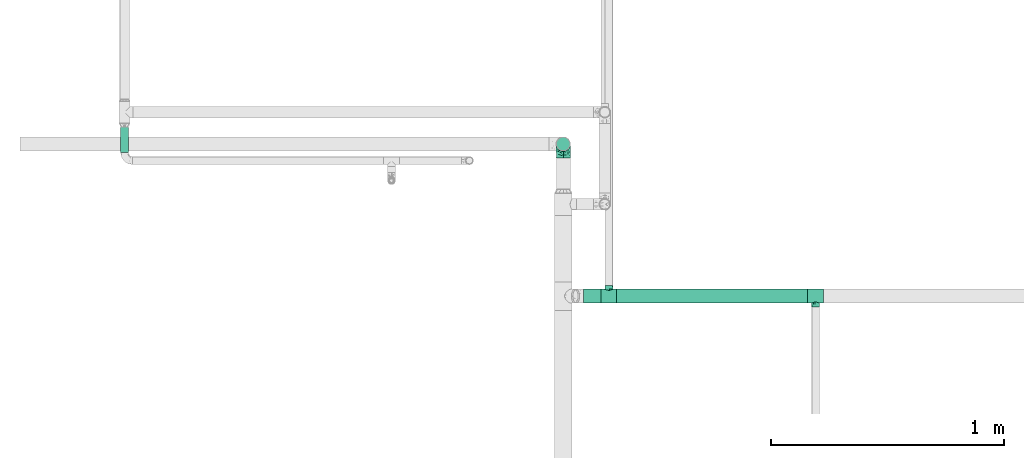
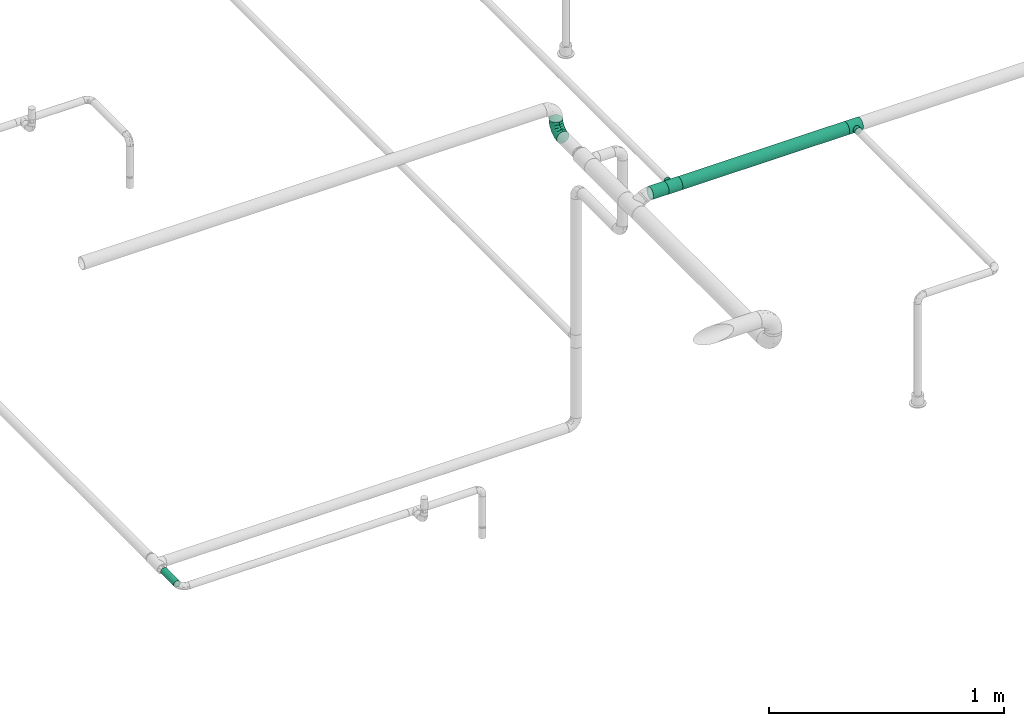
# One storey, part 17 of 95: 3 flow fittings, 3 flow segments.
"""IFC2X3 building model written with IfcOpenShell, lengths in millimetres."""

import ifcopenshell
import ifcopenshell.guid

model = None  # the IFC model being written
_history = None  # IfcOwnerHistory: only IFC2X3 demands one
_inside = {}  # id of a spatial element -> (the spatial element, [elements in it])
_under = {}  # id of a project, library or spatial element -> (it, [spatial elements below it])
_declared = {}  # id of a project -> (the project, [libraries it declares])
_typed = {}  # id of a type object -> (the type object, [elements of that type])
_made_of = {}  # id of a material, layer set ... -> (it, [elements and type objects made of it])


def new_model(schema):
    """Start an empty IFC model of exactly this schema.

    Asked for "IFC4X3", IfcOpenShell would pick the latest addendum, in which some entities
    have other attributes; the version numbers below select the first issue.
    IFC2X3 requires an IfcOwnerHistory on every rooted entity: one is made here for all.
    """
    global model, _history
    if schema == "IFC4X3":
        model = ifcopenshell.file(schema_version=(4, 3, 0, 0))
    else:
        model = ifcopenshell.file(schema=schema)
    _inside.clear()
    _under.clear()
    _declared.clear()
    _typed.clear()
    _made_of.clear()
    _history = None
    if model.schema == "IFC2X3":
        org = make("IfcOrganization", Name="unknown")
        user = make(
            "IfcPersonAndOrganization",
            ThePerson=make("IfcPerson", FamilyName="unknown"),
            TheOrganization=org,
        )
        app = make(
            "IfcApplication",
            ApplicationDeveloper=org,
            Version="unknown",
            ApplicationFullName="unknown",
            ApplicationIdentifier="unknown",
        )
        _history = make(
            "IfcOwnerHistory",
            OwningUser=user,
            OwningApplication=app,
            ChangeAction="ADDED",
            CreationDate=0,
        )
    return model


def make(cls, **values):
    """One entity of the class cls with the attributes given. An attribute that is None is left unset."""
    return model.create_entity(
        cls, **{name: value for name, value in values.items() if value is not None}
    )


def entity(cls, *values):
    """Any entity or typed value of the class cls, its attributes in the order of the schema. None: left unset."""
    e = model.create_entity(cls)
    for i, value in enumerate(values):
        if value is not None:
            e[i] = value
    return e


def rooted(cls, **values):
    """An entity with a GlobalId (a new one), such as an element, a storey or a relation."""
    return make(cls, GlobalId=ifcopenshell.guid.new(), OwnerHistory=_history, **values)


def si_unit(unit_type, name, prefix=None):
    """IfcSIUnit, for example si_unit("LENGTHUNIT", "METRE", prefix="MILLI")."""
    return make("IfcSIUnit", UnitType=unit_type, Prefix=prefix, Name=name)


def converted_unit(unit_type, name, factor, base, dimensions=None, offset=None):
    """IfcConversionBasedUnit, such as the inch: factor (a typed value) times the base unit."""
    return make(
        "IfcConversionBasedUnit"
        if offset is None
        else "IfcConversionBasedUnitWithOffset",
        ConversionOffset=offset,
        Dimensions=None
        if dimensions is None
        else entity("IfcDimensionalExponents", *dimensions),
        UnitType=unit_type,
        Name=name,
        ConversionFactor=make(
            "IfcMeasureWithUnit", ValueComponent=factor, UnitComponent=base
        ),
    )


def derived_unit(unit_type, elements):
    """IfcDerivedUnit: a product of units, each with its exponent."""
    return make(
        "IfcDerivedUnit",
        Elements=[
            make("IfcDerivedUnitElement", Unit=unit, Exponent=power)
            for unit, power in elements
        ],
        UnitType=unit_type,
    )


def assignment(units):
    """IfcUnitAssignment: the units of a project."""
    return None if units is None else make("IfcUnitAssignment", Units=units)


def point(xyz):
    """IfcCartesianPoint."""
    return None if xyz is None else make("IfcCartesianPoint", Coordinates=xyz)


def direction(xyz):
    """IfcDirection."""
    return None if xyz is None else make("IfcDirection", DirectionRatios=xyz)


def frame(location, z_axis=None, x_axis=None):
    """IfcAxis2Placement3D, a coordinate frame: its origin and axes. An axis left out is left unset."""
    return make(
        "IfcAxis2Placement3D",
        Location=point(location),
        Axis=direction(z_axis),
        RefDirection=direction(x_axis),
    )


def frame_2d(location, x_axis=None):
    """IfcAxis2Placement2D, a coordinate frame in the plane: its origin and x axis."""
    return make(
        "IfcAxis2Placement2D", Location=point(location), RefDirection=direction(x_axis)
    )


def origin_with_axes():
    """The frame at (0, 0, 0) with the z axis (0, 0, 1) and the x axis (1, 0, 0) written out."""
    return frame((0.0, 0.0, 0.0), z_axis=(0.0, 0.0, 1.0), x_axis=(1.0, 0.0, 0.0))


def origin_2d_with_axis():
    """The frame at (0, 0) in the plane with the x axis (1, 0) written out."""
    return frame_2d((0.0, 0.0), x_axis=(1.0, 0.0))


def place(relative_to, where):
    """IfcLocalPlacement: puts the frame where relative to a parent placement (None: the world)."""
    return make(
        "IfcLocalPlacement", PlacementRelTo=relative_to, RelativePlacement=where
    )


def context(
    kind, dimensions, precision=None, world=None, true_north=None, identifier=None
):
    """IfcGeometricRepresentationContext, for example the 3D "Model" context."""
    return make(
        "IfcGeometricRepresentationContext",
        ContextIdentifier=identifier,
        ContextType=kind,
        CoordinateSpaceDimension=dimensions,
        Precision=precision,
        WorldCoordinateSystem=world,
        TrueNorth=true_north,
    )


def subcontext(parent, identifier, kind, view, scale=None):
    """IfcGeometricRepresentationSubContext, for example "Body" below "Model"."""
    return make(
        "IfcGeometricRepresentationSubContext",
        ContextIdentifier=identifier,
        ContextType=kind,
        ParentContext=parent,
        TargetScale=scale,
        TargetView=view,
    )


def project(units=None, contexts=None):
    """IfcProject with its units and contexts."""
    return rooted(
        "IfcProject",
        Name="project",
        RepresentationContexts=contexts,
        UnitsInContext=assignment(units),
    )


def spatial(cls, under=None, at=None, **own):
    """A site, building, storey or space (cls), placed at a placement, below another one or the project."""
    s = rooted(cls, ObjectPlacement=at, **own)
    if under is not None:
        _under.setdefault(under.id(), (under, []))[1].append(s)
    return s


def profile(cls, at=None, kind="AREA", **sizes):
    """A parametric profile (cls). Its sizes go by their IFC names, for example OverallWidth=200.0."""
    return make(cls, ProfileType=kind, Position=at, **sizes)


def hollow_circle(**sizes):
    """IfcCircleHollowProfileDef."""
    return profile("IfcCircleHollowProfileDef", **sizes)


def extrude(swept, where, along, depth):
    """IfcExtrudedAreaSolid: the profile swept, set in the frame where, extruded along a direction by depth."""
    return make(
        "IfcExtrudedAreaSolid",
        SweptArea=swept,
        Position=where,
        ExtrudedDirection=direction(along),
        Depth=depth,
    )


def faces_of(points, faces, orient=None, outer=None):
    """IfcFace entities. A face is a list of loops; a loop is a list of indices into points, from 0.

    orient and outer hold one flag for each loop. By default every Orientation is true, the
    first loop of a face is its IfcFaceOuterBound and the others are IfcFaceBound.
    """
    made = []
    for i, loops in enumerate(faces):
        bounds = []
        for j, loop in enumerate(loops):
            is_outer = j == 0 if outer is None else outer[i][j]
            bounds.append(
                make(
                    "IfcFaceOuterBound" if is_outer else "IfcFaceBound",
                    Bound=make("IfcPolyLoop", Polygon=[points[k] for k in loop]),
                    Orientation=True if orient is None else orient[i][j],
                )
            )
        made.append(make("IfcFace", Bounds=bounds))
    return made


def open_shell(faces, orient=None, outer=None):
    """The faces of one IfcOpenShell. surface_model builds it on its shared points."""
    return ("IfcOpenShell", faces, orient, outer)


def surface_model(cls, points, shells):
    """IfcFaceBasedSurfaceModel or IfcShellBasedSurfaceModel (cls): surfaces that need not close."""
    shared = [point(p) for p in points]
    made = [make(c, CfsFaces=faces_of(shared, fs, o, b)) for c, fs, o, b in shells]
    if cls == "IfcFaceBasedSurfaceModel":
        return make(cls, FbsmFaces=made)
    return make(cls, SbsmBoundary=made)


def shape(context_of_items, identifier, shape_type, items):
    """IfcShapeRepresentation: the items that make up one representation, for example the "Body"."""
    return make(
        "IfcShapeRepresentation",
        ContextOfItems=context_of_items,
        RepresentationIdentifier=identifier,
        RepresentationType=shape_type,
        Items=items,
    )


def source(mapping_origin, context_of_items, identifier, shape_type, items):
    """IfcRepresentationMap: a shape defined once, which mapped items show again and again."""
    return make(
        "IfcRepresentationMap",
        MappingOrigin=mapping_origin,
        MappedRepresentation=shape(context_of_items, identifier, shape_type, items),
    )


def transform(
    local_origin,
    x_axis=None,
    y_axis=None,
    z_axis=None,
    scale=None,
    scale2=None,
    scale3=None,
    uniform=True,
):
    """IfcCartesianTransformationOperator3D, or its non-uniform kind. x_axis, y_axis, z_axis: its Axis1, 2, 3."""
    if uniform:
        return make(
            "IfcCartesianTransformationOperator3D",
            Axis1=direction(x_axis),
            Axis2=direction(y_axis),
            LocalOrigin=point(local_origin),
            Scale=scale,
            Axis3=direction(z_axis),
        )
    return make(
        "IfcCartesianTransformationOperator3DnonUniform",
        Axis1=direction(x_axis),
        Axis2=direction(y_axis),
        LocalOrigin=point(local_origin),
        Scale=scale,
        Axis3=direction(z_axis),
        Scale2=scale2,
        Scale3=scale3,
    )


def mapped(mapping_source, mapping_target):
    """IfcMappedItem: shows the shape of a source again, moved by a transform."""
    return make(
        "IfcMappedItem", MappingSource=mapping_source, MappingTarget=mapping_target
    )


def made_of(thing, what):
    """Note that an element or type object is made of a material, layer set ...; save() writes the relation."""
    if what is not None:
        _made_of.setdefault(what.id(), (what, []))[1].append(thing)
    return thing


def type_object(cls, material=None, **own):
    """A type object (cls), such as IfcWallType, which elements share."""
    return made_of(rooted(cls, **own), material)


def element(
    cls,
    number,
    at=None,
    inside=None,
    cuts=None,
    type_object=None,
    material=None,
    context=None,
    identifier="Body",
    shape_type=None,
    held_by="IfcProductDefinitionShape",
    body=None,
    shapes=None,
    **own,
):
    """One element of the class cls, such as IfcWall. Its Tag is "e" and its number.

    at: its placement. inside: the storey or other place that contains it. cuts: it is an
    opening in that element (IfcRelVoidsElement). A single representation is given by context,
    identifier, shape_type and body (its items); several are given by shapes. held_by: the class
    of the entity that holds the representations. save() writes the other relations.
    """
    e = rooted(cls, Tag="e%d" % number, ObjectPlacement=at, **own)
    if body is not None:
        shapes = [shape(context, identifier, shape_type, body)]
    if shapes is not None:
        e.Representation = make(held_by, Representations=shapes)
    if inside is not None:
        _inside.setdefault(inside.id(), (inside, []))[1].append(e)
    if cuts is not None:
        rooted(
            "IfcRelVoidsElement", RelatingBuildingElement=cuts, RelatedOpeningElement=e
        )
    if type_object is not None:
        _typed.setdefault(type_object.id(), (type_object, []))[1].append(e)
    return made_of(e, material)


def aggregate(whole, parts):
    """IfcRelAggregates: a whole, such as a stair, and the parts it consists of."""
    return rooted("IfcRelAggregates", RelatingObject=whole, RelatedObjects=parts)


def save(model, path):
    """Write the relations noted so far, then the file.

    IfcRelAggregates (storeys below a building ...), IfcRelContainedInSpatialStructure (elements
    in a storey), IfcRelDefinesByType, IfcRelAssociatesMaterial and IfcRelDeclares: one each for
    every whole, place, type object, material and project.
    """
    for whole, parts in _under.values():
        aggregate(whole, parts)
    for where, things in _inside.values():
        rooted(
            "IfcRelContainedInSpatialStructure",
            RelatedElements=things,
            RelatingStructure=where,
        )
    for kind, things in _typed.values():
        rooted("IfcRelDefinesByType", RelatedObjects=things, RelatingType=kind)
    for what, things in _made_of.values():
        rooted("IfcRelAssociatesMaterial", RelatedObjects=things, RelatingMaterial=what)
    for by, libraries in _declared.values():
        rooted("IfcRelDeclares", RelatingContext=by, RelatedDefinitions=libraries)
    model.write(path)


model = new_model("IFC2X3")

# Units and contexts
model_context = context("Model", 3, precision=0.01, world=frame((0.0, 4.29681676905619e-09, 0.0)), true_north=direction((4.01073788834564e-13, 1.0)))
plan_context = context("Plan", 3, precision=0.01, world=frame((0.0, 4.29681676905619e-09, 0.0)), true_north=direction((4.01073788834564e-13, 1.0)))
body_context = subcontext(model_context, "Body", "Model", "MODEL_VIEW")
ifc_project = project(units=[converted_unit("PLANEANGLEUNIT", "DEGREE", entity("IfcPositiveLengthMeasure", 0.0174532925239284), si_unit("PLANEANGLEUNIT", "RADIAN"), dimensions=[0, 0, 0, 0, 0, 0, 0]), si_unit("AREAUNIT", "SQUARE_METRE"), si_unit("LENGTHUNIT", "METRE", prefix="MILLI"), si_unit("MASSUNIT", "GRAM", prefix="KILO"), si_unit("POWERUNIT", "WATT"), si_unit("PRESSUREUNIT", "PASCAL"), si_unit("FORCEUNIT", "NEWTON", prefix="KILO"), si_unit("ELECTRICVOLTAGEUNIT", "VOLT"), si_unit("ELECTRICCURRENTUNIT", "AMPERE"), si_unit("THERMODYNAMICTEMPERATUREUNIT", "DEGREE_CELSIUS"), si_unit("TIMEUNIT", "SECOND"), si_unit("VOLUMEUNIT", "CUBIC_METRE"), derived_unit("LINEARVELOCITYUNIT", [(si_unit("LENGTHUNIT", "METRE"), 1), (si_unit("TIMEUNIT", "SECOND"), -1)]), derived_unit("VOLUMETRICFLOWRATEUNIT", [(si_unit("VOLUMEUNIT", "CUBIC_METRE"), 1), (si_unit("TIMEUNIT", "SECOND"), -1)]), derived_unit("THERMALTRANSMITTANCEUNIT", [(si_unit("POWERUNIT", "WATT"), 1), (si_unit("THERMODYNAMICTEMPERATUREUNIT", "KELVIN"), -1), (si_unit("AREAUNIT", "SQUARE_METRE"), -1)]), derived_unit("SOUNDPRESSUREUNIT", [(si_unit("PRESSUREUNIT", "PASCAL"), 1)])], contexts=[model_context, plan_context])

# Site, building, storey
site_placement = place(None, frame((0.0, -4.29681676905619e-09, 0.0), z_axis=(0.0, 0.0, 1.0), x_axis=(1.0, 0.0, 0.0)))
site = spatial("IfcSite", under=ifc_project, at=site_placement, CompositionType="ELEMENT")
building_placement = place(site_placement, frame((0.0, 4.29681676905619e-09, 0.0), z_axis=(0.0, 0.0, 1.0), x_axis=(1.0, 0.0, 0.0)))
building = spatial("IfcBuilding", under=site, at=building_placement, Name="mc-building", CompositionType="ELEMENT")
storey_placement = place(building_placement, frame((0.0, 0.0, 210900.0), z_axis=(0.0, 0.0, 1.0), x_axis=(1.0, 0.0, 0.0)))
storey = spatial("IfcBuildingStorey", under=building, at=storey_placement, Name="Nivå F", CompositionType="ELEMENT", Elevation=210900.0)

# Flow fittings
pipe_fitting_type_1 = type_object("IfcPipeFittingType", Name="magi_pipe_fe_elbow_short_001", PredefinedType="BEND")
shared_shape_1 = source(origin_with_axes(), body_context, "Body", "SurfaceModel", [
    surface_model("IfcShellBasedSurfaceModel", [(-60.4, 15.1, -26.15397), (-60.4, 7.81634, -29.17096), (-60.4, 0.0, -30.2), (-60.4, -21.35462, -21.35462), (-60.4, 26.15397, -15.1), (-60.4, 21.35462, -21.35462), (-60.4, 29.17096, -7.81634), (-60.4, -15.1, -26.15397), (-60.4, -7.81634, -29.17096), (-60.4, -26.15397, -15.1), (-60.4, -29.17096, -7.81634), (-60.4, -30.2, 0.0), (-60.4, -29.17096, 7.81634), (-60.4, 29.17096, 7.81634), (-60.4, -21.35462, 21.35462), (-60.4, 26.15397, 15.1), (-60.4, 21.35462, 21.35462), (-60.4, 7.81634, 29.17096), (-60.4, 15.1, 26.15397), (-60.4, -26.15397, 15.1), (-60.4, -7.81634, 29.17096), (-60.4, 0.0, 30.2), (-60.4, -15.1, 26.15397), (-60.4, 30.2, 0.0), (0.0, 60.4, -30.2), (-7.81634, 60.4, -29.17096), (-15.1, 60.4, -26.15397), (-26.15397, 60.4, -15.1), (-29.17096, 60.4, -7.81634), (-21.35462, 60.4, -21.35462), (29.17096, 60.4, -7.81634), (7.81634, 60.4, -29.17096), (21.35462, 60.4, -21.35462), (15.1, 60.4, -26.15397), (26.15397, 60.4, -15.1), (29.17096, 60.4, 7.81634), (30.2, 60.4, 0.0), (-29.17096, 60.4, 7.81634), (21.35462, 60.4, 21.35462), (-21.35462, 60.4, 21.35462), (-26.15397, 60.4, 15.1), (-15.1, 60.4, 26.15397), (-7.81634, 60.4, 29.17096), (26.15397, 60.4, 15.1), (15.1, 60.4, 26.15397), (0.0, 60.4, 30.2), (7.81634, 60.4, 29.17096), (-30.2, 60.4, 0.0), (-40.79975, -26.48639, 9.49143), (-44.2927, -23.46036, 16.95222), (-32.40306, -25.76572, 0.0), (-45.54716, -27.84754, 0.0), (-7.73382, -10.42985, 11.64553), (-2.102, -8.06735, 6.35117), (1.74449, -1.74448, 12.51332), (-46.13593, -4.00068, 29.68351), (-42.2898, 4.62925, 30.14853), (10.31662, 7.37496, 11.34434), (18.44156, 24.57514, 15.02148), (7.07276, 10.95732, 19.27498), (-30.06693, -0.27102, 29.27145), (-44.17726, -11.39441, 27.16031), (-23.4551, -7.13383, 25.24246), (-38.74025, -17.25266, 22.43475), (-27.059, -23.14697, 6.2131), (-19.77486, -19.33133, 0.0), (-10.95732, -7.07276, 19.27498), (-5.39458, 5.39458, 24.69106), (-29.52069, 48.20084, 13.12597), (-25.22813, 47.01796, 19.8404), (-11.27311, 52.093, 28.2877), (-4.13904, 45.17494, 30.12582), (-46.55352, 11.8443, 28.52822), (-7.88305, 20.22717, 29.65331), (-15.00576, 5.54025, 28.20072), (-3.0852, 16.31623, 27.75343), (-52.24998, 18.2886, 24.60768), (-10.49591, 29.69865, 30.14582), (-22.36958, 22.36958, 29.4662), (-17.98262, 13.19715, 30.04443), (-47.74519, 32.16745, 6.63994), (-48.21585, 29.51581, 13.12396), (-37.49729, 37.49729, 11.28901), (-47.20967, 25.1754, 19.81929), (17.25266, 38.74025, 22.43475), (-31.32046, 40.03273, 17.09289), (11.39441, 44.17725, 27.16031), (23.46036, 44.2927, 16.95222), (26.48639, 40.79975, 9.49143), (-7.14666, -12.89694, 0.0), (-14.66463, -16.61192, 7.82462), (4.00068, 46.13593, 29.68351), (-33.18602, 12.93608, 29.65955), (-29.63414, 7.40029, 30.18711), (19.33133, 19.77486, 0.0), (23.14697, 27.059, 6.2131), (16.61192, 14.66463, 7.82462), (27.84754, 45.54716, 0.0), (-32.10611, 20.49149, 27.93323), (-24.57514, -18.44156, 15.02148), (-21.89487, 39.03366, 25.38224), (-18.45005, 50.6405, 24.73297), (-31.78933, 48.71949, 6.47886), (-37.84917, 39.61073, 5.315), (13.91334, 24.32737, 20.46816), (7.13383, 23.4551, 25.24246), (-34.24603, 45.3, 0.0), (-27.95749, 31.89166, 24.81537), (-41.58677, 20.50028, 25.43151), (-0.46157, 0.46157, 17.84239), (-17.23338, 31.26213, 29.03145), (-24.05994, 29.23812, 27.47858), (-13.06094, 40.92174, 28.76128), (-31.83392, 33.72702, 21.39203), (-38.78737, 32.45032, 16.84022), (0.27102, 30.06693, 29.27145), (-24.21469, -13.23741, 21.05734), (8.23548, 2.19333, 6.02161), (25.76572, 32.40306, 0.0), (12.89694, 7.14666, 0.0), (-45.3, 34.24603, 0.0), (2.87514, -2.87514, 0.0), (-44.53432, 26.00869, -20.11577), (-48.18822, 29.5248, -13.12766), (-24.67192, -7.62159, -25.33714), (-26.22398, -0.37671, -28.72374), (-12.13397, -0.50536, -24.74577), (-47.80891, 3.81859, -30.10171), (-44.05719, -27.03585, -9.84546), (-37.94552, -22.39569, -16.35738), (-28.81663, -22.64668, -10.132), (-43.93799, 12.32789, -28.63778), (-33.27, 7.1392, -30.19348), (-26.0087, 44.53432, -20.11577), (-48.89164, 31.68872, -6.60822), (-18.95522, 47.41145, -24.9828), (-12.32789, 43.93799, -28.63778), (-38.42778, 38.42778, -7.21049), (18.04263, 43.69152, -22.80146), (10.42233, 38.24532, -26.85918), (11.90576, 51.00473, -27.48545), (-5.88381, -10.62327, -7.95335), (-5.9694, -7.83116, -13.76182), (3.24899, -2.56331, -7.96861), (-17.62229, 16.32998, -30.18286), (-28.62959, 17.86952, -29.30113), (-47.41145, 18.95522, -24.98279), (-50.84455, -24.04089, -17.54629), (-29.38053, 34.30665, -22.74674), (-27.91099, 27.91099, -26.51666), (-36.91219, 25.51094, -23.99233), (2.63361, -0.55507, -12.94367), (-43.69152, -18.04263, -22.80146), (22.39569, 37.94552, -16.35738), (27.03585, 44.05719, -9.84546), (22.64668, 28.81663, -10.132), (-51.00473, -11.90576, -27.48545), (3.80785, 44.49426, -29.64782), (-19.0921, -14.69952, -16.47487), (-22.5489, -12.31934, -21.1263), (-10.94772, -7.46239, -18.88204), (-32.95885, -13.78948, -23.71249), (-38.24532, -10.42233, -26.85918), (-44.49427, -3.80785, -29.64782), (-22.6301, 37.15314, -25.58239), (-31.68872, 48.89164, -6.60822), (-3.8186, 47.80891, -30.10171), (-10.66133, 10.66133, -28.51691), (0.37671, 26.22398, -28.72374), (1.27136, 14.18619, -25.18541), (-29.5248, 48.18821, -13.12766), (-36.27113, 36.27113, -14.88553), (24.04089, 50.84455, -17.54629), (17.50188, 24.2636, -16.21902), (9.73525, 11.44907, -16.75087), (12.31934, 22.5489, -21.1263), (6.24176, 25.78208, -26.38266), (-7.1392, 33.27, -30.19348), (-36.7166, 19.4356, -27.21946), (-18.00754, 29.38864, -29.15505), (-0.28629, 0.28629, -17.49884), (-13.98848, -16.88492, -5.19509), (15.48569, 15.00432, -11.24742), (16.88492, 13.98848, -5.19509), (3.55782, 9.20508, -21.18402), (-15.00432, -15.48569, -11.24742)], [open_shell([[[0, 1, 2]], [[0, 2, 3]], [[4, 0, 3]], [[5, 0, 4]], [[6, 4, 3]], [[7, 3, 8]], [[3, 2, 8]], [[9, 10, 3]], [[3, 10, 6]], [[11, 12, 10]], [[13, 6, 10]], [[13, 10, 14]], [[15, 13, 16]], [[17, 18, 16]], [[13, 17, 16]], [[17, 13, 14]], [[19, 14, 12]], [[12, 14, 10]], [[20, 21, 22]], [[17, 14, 22]], [[17, 22, 21]], [[13, 23, 6]], [[24, 25, 26]], [[24, 26, 27]], [[27, 28, 24]], [[27, 26, 29]], [[24, 28, 30]], [[31, 32, 33]], [[31, 24, 32]], [[32, 30, 34]], [[24, 30, 32]], [[30, 35, 36]], [[30, 28, 37]], [[38, 30, 37]], [[39, 37, 40]], [[39, 41, 42]], [[39, 42, 37]], [[38, 37, 42]], [[35, 38, 43]], [[30, 38, 35]], [[44, 45, 46]], [[44, 38, 42]], [[45, 44, 42]], [[28, 47, 37]], [[48, 49, 19]], [[50, 48, 51]], [[52, 53, 54]], [[12, 48, 19]], [[12, 51, 48]], [[21, 55, 56]], [[19, 49, 14]], [[57, 58, 59]], [[60, 61, 62]], [[63, 22, 14]], [[63, 61, 22]], [[64, 50, 65]], [[62, 66, 67]], [[40, 68, 69]], [[42, 70, 71]], [[17, 72, 18]], [[73, 74, 75]], [[18, 76, 16]], [[20, 55, 21]], [[77, 78, 79]], [[80, 81, 82]], [[15, 83, 81]], [[84, 38, 44]], [[23, 13, 80]], [[13, 15, 81]], [[68, 85, 69]], [[83, 15, 16]], [[21, 56, 17]], [[44, 86, 84]], [[16, 76, 83]], [[87, 58, 88]], [[40, 37, 68]], [[89, 90, 65]], [[45, 91, 46]], [[65, 90, 64]], [[45, 42, 71]], [[92, 93, 79]], [[88, 35, 43]], [[43, 38, 87]], [[87, 88, 43]], [[94, 95, 96]], [[88, 97, 35]], [[98, 72, 92]], [[49, 99, 63]], [[69, 100, 101]], [[82, 102, 103]], [[104, 105, 59]], [[106, 102, 47]], [[98, 107, 108]], [[102, 82, 68]], [[86, 44, 46]], [[69, 39, 40]], [[109, 54, 57]], [[110, 100, 111]], [[22, 61, 20]], [[101, 41, 39]], [[70, 42, 41]], [[112, 77, 71]], [[84, 86, 105]], [[96, 95, 58]], [[100, 69, 113]], [[72, 17, 56]], [[108, 113, 83]], [[81, 114, 82]], [[112, 110, 77]], [[91, 71, 115]], [[62, 61, 63]], [[55, 61, 60]], [[116, 99, 66]], [[74, 62, 67]], [[91, 86, 46]], [[105, 86, 115]], [[75, 105, 115]], [[109, 67, 66]], [[59, 105, 67]], [[48, 64, 99]], [[99, 49, 48]], [[63, 14, 49]], [[38, 84, 87]], [[58, 87, 84]], [[92, 72, 56]], [[76, 72, 108]], [[102, 68, 37]], [[82, 114, 85]], [[98, 111, 107]], [[112, 70, 101]], [[114, 83, 113]], [[82, 103, 80]], [[92, 79, 78]], [[115, 71, 77]], [[74, 79, 60]], [[77, 79, 73]], [[71, 91, 45]], [[86, 91, 115]], [[61, 55, 20]], [[56, 55, 60]], [[57, 54, 117]], [[104, 59, 58]], [[116, 66, 62]], [[52, 99, 90]], [[12, 11, 51]], [[97, 88, 118]], [[97, 36, 35]], [[53, 90, 89]], [[90, 53, 52]], [[94, 96, 119]], [[88, 95, 118]], [[117, 54, 53]], [[92, 56, 93]], [[98, 92, 78]], [[111, 98, 78]], [[72, 98, 108]], [[110, 111, 78]], [[107, 111, 100]], [[47, 102, 37]], [[102, 106, 103]], [[106, 120, 103]], [[103, 120, 80]], [[23, 80, 120]], [[13, 81, 80]], [[56, 60, 93]], [[60, 79, 93]], [[117, 121, 119]], [[121, 117, 53]], [[53, 89, 121]], [[119, 96, 117]], [[117, 96, 57]], [[77, 110, 78]], [[100, 110, 112]], [[83, 114, 81]], [[85, 114, 113]], [[69, 85, 113]], [[82, 85, 68]], [[109, 52, 54]], [[99, 52, 66]], [[69, 101, 39]], [[112, 101, 100]], [[100, 113, 107]], [[108, 107, 113]], [[62, 74, 60]], [[75, 74, 67]], [[105, 75, 67]], [[73, 75, 115]], [[77, 73, 115]], [[74, 73, 79]], [[99, 64, 90]], [[50, 64, 48]], [[118, 95, 94]], [[58, 95, 88]], [[58, 57, 96]], [[109, 57, 59]], [[72, 76, 18]], [[83, 76, 108]], [[101, 70, 41]], [[71, 70, 112]], [[58, 84, 104]], [[105, 104, 84]], [[67, 109, 59]], [[52, 109, 66]], [[62, 63, 116]], [[99, 116, 63]], [[122, 4, 123]], [[124, 125, 126]], [[2, 1, 127]], [[128, 129, 130]], [[127, 131, 132]], [[27, 29, 133]], [[120, 134, 23]], [[135, 26, 136]], [[123, 134, 137]], [[138, 139, 140]], [[122, 5, 4]], [[141, 142, 143]], [[144, 132, 145]], [[131, 0, 146]], [[128, 9, 147]], [[148, 149, 150]], [[128, 51, 10]], [[142, 151, 143]], [[152, 3, 7]], [[153, 154, 155]], [[156, 152, 7]], [[31, 157, 24]], [[158, 159, 160]], [[147, 9, 3]], [[129, 152, 161]], [[156, 7, 8]], [[162, 163, 125]], [[154, 34, 30]], [[120, 106, 137]], [[149, 148, 164]], [[47, 28, 165]], [[163, 8, 2]], [[4, 6, 123]], [[25, 166, 136]], [[167, 168, 169]], [[170, 133, 171]], [[25, 24, 166]], [[33, 32, 138]], [[157, 31, 140]], [[28, 27, 170]], [[32, 34, 172]], [[26, 135, 29]], [[132, 131, 145]], [[31, 33, 140]], [[173, 174, 175]], [[169, 168, 176]], [[25, 136, 26]], [[175, 138, 173]], [[168, 177, 157]], [[163, 162, 156]], [[153, 172, 154]], [[9, 128, 10]], [[154, 97, 118]], [[131, 178, 145]], [[0, 5, 146]], [[175, 139, 138]], [[155, 118, 94]], [[131, 1, 0]], [[146, 178, 131]], [[170, 137, 165]], [[149, 179, 145]], [[171, 133, 148]], [[160, 180, 142]], [[65, 181, 89]], [[170, 165, 28]], [[137, 171, 123]], [[172, 138, 32]], [[138, 153, 173]], [[168, 157, 139]], [[166, 157, 177]], [[176, 175, 169]], [[168, 167, 144]], [[154, 30, 97]], [[155, 182, 173]], [[162, 124, 161]], [[147, 152, 129]], [[127, 163, 2]], [[132, 144, 125]], [[132, 125, 163]], [[125, 167, 126]], [[129, 158, 130]], [[30, 36, 97]], [[143, 182, 183]], [[169, 126, 167]], [[5, 122, 146]], [[178, 150, 149]], [[136, 179, 164]], [[133, 29, 135]], [[123, 6, 134]], [[122, 123, 171]], [[133, 170, 27]], [[137, 170, 171]], [[184, 175, 174]], [[180, 160, 126]], [[126, 169, 184]], [[126, 159, 124]], [[51, 128, 50]], [[51, 11, 10]], [[131, 127, 1]], [[163, 127, 132]], [[157, 166, 24]], [[136, 166, 177]], [[164, 179, 149]], [[144, 167, 125]], [[179, 144, 145]], [[168, 144, 177]], [[136, 177, 179]], [[144, 179, 177]], [[141, 121, 89]], [[89, 181, 141]], [[154, 118, 155]], [[183, 155, 94]], [[143, 183, 119]], [[119, 183, 94]], [[155, 183, 182]], [[181, 130, 185]], [[50, 128, 130]], [[130, 181, 65]], [[50, 130, 65]], [[141, 181, 185]], [[142, 141, 185]], [[143, 121, 141]], [[158, 160, 142]], [[142, 180, 151]], [[158, 142, 185]], [[126, 160, 159]], [[130, 158, 185]], [[129, 159, 158]], [[23, 134, 6]], [[120, 137, 134]], [[137, 106, 165]], [[47, 165, 106]], [[174, 151, 180]], [[182, 143, 151]], [[150, 146, 122]], [[149, 145, 178]], [[146, 150, 178]], [[122, 171, 148]], [[148, 150, 122]], [[164, 133, 135]], [[133, 164, 148]], [[164, 135, 136]], [[138, 140, 33]], [[157, 140, 139]], [[154, 172, 34]], [[138, 172, 153]], [[163, 156, 8]], [[152, 156, 162]], [[152, 147, 3]], [[128, 147, 129]], [[155, 173, 153]], [[174, 173, 182]], [[151, 174, 182]], [[174, 180, 184]], [[126, 184, 180]], [[175, 184, 169]], [[168, 139, 176]], [[175, 176, 139]], [[161, 124, 159]], [[125, 124, 162]], [[129, 161, 159]], [[162, 161, 152]], [[143, 119, 121]]])]),
])
flow_fitting_placement = place(storey_placement, frame((522602.92009, 451491.5262, 4274.84456), z_axis=(1.0, 0.0, 0.0), x_axis=(0.0, 1.0, 0.0)))
element("IfcFlowFitting", 1, at=flow_fitting_placement, inside=storey, type_object=pipe_fitting_type_1, Name="magi_pipe_fe_elbow_short_001", context=body_context, shape_type="MappedRepresentation", body=[
    mapped(shared_shape_1, transform((0.0, 0.0, 0.0), scale=1.0)),
])
pipe_fitting_type_2 = type_object("IfcPipeFittingType", Name="magi_pipe_fe_tee_centric_90_NOR", PredefinedType="JUNCTION")
shared_shape_2 = source(origin_with_axes(), body_context, "Body", "SurfaceModel", [
    surface_model("IfcShellBasedSurfaceModel", [(-33.8, 15.1, -26.15397), (-33.8, 7.81634, -29.17096), (-33.8, 0.0, -30.2), (-33.8, 29.17096, -7.81634), (-33.8, 26.15397, -15.1), (-33.8, 21.35462, -21.35462), (-33.8, 30.2, 0.0), (-33.8, -30.2, 0.0), (-33.8, -15.1, -26.15397), (-33.8, -21.35462, -21.35462), (-33.8, -7.81634, -29.17096), (-33.8, -26.15397, -15.1), (-33.8, -29.17096, -7.81634), (-33.8, 26.15397, 15.1), (-33.8, 29.17096, 7.81634), (-33.8, 15.1, 26.15397), (-33.8, -21.35462, 21.35462), (-33.8, 21.35462, 21.35462), (-33.8, 7.81634, 29.17096), (-33.8, -29.17096, 7.81634), (-33.8, -26.15397, 15.1), (-33.8, -7.81634, 29.17096), (-33.8, 0.0, 30.2), (-33.8, -15.1, 26.15397), (33.8, 29.17096, -7.81634), (33.8, 0.0, -30.2), (33.8, 7.81634, -29.17096), (33.8, 21.35462, -21.35462), (33.8, 15.1, -26.15397), (33.8, 26.15397, -15.1), (33.8, -30.2, 0.0), (33.8, -7.81634, -29.17096), (33.8, -21.35462, -21.35462), (33.8, -15.1, -26.15397), (33.8, -29.17096, -7.81634), (33.8, -26.15397, -15.1), (33.8, 30.2, 0.0), (33.8, 29.17096, 7.81634), (33.8, 26.15397, 15.1), (33.8, -29.17096, 7.81634), (33.8, 15.1, 26.15397), (33.8, 7.81634, 29.17096), (33.8, 21.35462, 21.35462), (33.8, -21.35462, 21.35462), (33.8, -26.15397, 15.1), (33.8, -15.1, 26.15397), (33.8, 0.0, 30.2), (33.8, -7.81634, 29.17096), (33.8, -29.68548, 3.90817), (15.846, -29.62306, 5.87488), (16.373, -29.91153, 2.93744), (12.91037, -28.16217, 10.90561), (2.99213, -25.2068, 16.63301), (16.9, -30.2, 0.0), (33.8, -27.66246, 11.45817), (8.50854, -26.43531, 14.60187), (-8.51006, -26.43579, 14.60099), (-33.8, -27.66246, 11.45817), (-12.91447, -28.16405, 10.90075), (-15.84655, -29.62335, 5.87341), (-33.8, -29.68548, 3.90817), (-16.37327, -29.91168, 2.93671), (-16.9, -30.2, 0.0), (-2.99705, -25.20739, 16.63213), (2.99213, -25.2068, -16.63301), (-16.37327, -29.91168, -2.93671), (8.50854, -26.43531, -14.60187), (33.8, -27.66246, -11.45817), (16.373, -29.91153, -2.93744), (-33.8, -29.68548, -3.90817), (-15.84655, -29.62335, -5.87341), (15.846, -29.62306, -5.87488), (12.91037, -28.16217, -10.90561), (33.8, -29.68548, -3.90817), (-2.99705, -25.20739, -16.63213), (-8.51006, -26.43579, -14.60099), (-12.91447, -28.16405, -10.90075), (-33.8, -27.66246, -11.45817), (4.37404, -45.3, -16.32415), (-16.9, -45.3, 0.0), (0.0, -45.3, -16.9), (14.63583, -45.3, -8.45), (8.45, -45.3, -14.63583), (16.32415, -45.3, -4.37404), (11.9501, -45.3, -11.9501), (-11.9501, -45.3, -11.9501), (-8.45, -45.3, -14.63583), (-4.37404, -45.3, -16.32415), (-14.63583, -45.3, -8.45), (-16.32415, -45.3, -4.37404), (16.9, -45.3, 0.0), (8.45, -45.3, 14.63583), (16.32415, -45.3, 4.37404), (14.63583, -45.3, 8.45), (-8.45, -45.3, 14.63583), (11.9501, -45.3, 11.9501), (4.37404, -45.3, 16.32415), (-16.32415, -45.3, 4.37404), (-11.9501, -45.3, 11.9501), (-14.63583, -45.3, 8.45), (0.0, -45.3, 16.9), (-4.37404, -45.3, 16.32415), (-5.75355, -25.82159, 15.61656), (-0.00246, -25.20709, 16.63257), (5.75034, -25.82105, 15.61744), (5.75034, -25.82105, -15.61744), (-0.00246, -25.20709, -16.63257), (-5.75355, -25.82159, -15.61656)], [open_shell([[[0, 1, 2]], [[3, 0, 2]], [[0, 3, 4]], [[5, 0, 4]], [[6, 2, 7]], [[8, 9, 10]], [[9, 2, 10]], [[11, 12, 9]], [[7, 9, 12]], [[9, 7, 2]], [[6, 3, 2]], [[13, 14, 6]], [[7, 15, 13]], [[7, 16, 15]], [[17, 13, 15]], [[18, 15, 16]], [[19, 20, 7]], [[7, 20, 16]], [[21, 22, 23]], [[16, 23, 22]], [[16, 22, 18]], [[7, 13, 6]], [[24, 25, 26]], [[27, 26, 28]], [[29, 24, 26]], [[29, 26, 27]], [[25, 24, 30]], [[31, 32, 33]], [[32, 31, 34]], [[32, 34, 35]], [[34, 31, 30]], [[31, 25, 30]], [[24, 36, 30]], [[36, 37, 38]], [[39, 36, 38]], [[40, 41, 38]], [[40, 38, 42]], [[43, 38, 41]], [[39, 43, 44]], [[39, 38, 43]], [[45, 46, 47]], [[46, 45, 43]], [[41, 46, 43]], [[36, 39, 30]], [[48, 39, 49]], [[30, 48, 50]], [[39, 51, 49]], [[44, 43, 52]], [[30, 50, 53]], [[51, 54, 55]], [[52, 55, 44]], [[48, 49, 50]], [[43, 16, 52]], [[55, 54, 44]], [[56, 57, 58]], [[59, 60, 61]], [[62, 61, 7]], [[59, 58, 19]], [[56, 63, 20]], [[51, 39, 54]], [[20, 57, 56]], [[20, 63, 16]], [[58, 57, 19]], [[63, 52, 16]], [[7, 61, 60]], [[59, 19, 60]], [[43, 23, 16]], [[22, 47, 46]], [[21, 45, 47]], [[18, 46, 41]], [[38, 37, 14]], [[17, 40, 42]], [[13, 42, 38]], [[41, 40, 15]], [[6, 37, 36]], [[23, 45, 21]], [[21, 47, 22]], [[18, 22, 46]], [[41, 15, 18]], [[15, 40, 17]], [[13, 17, 42]], [[14, 13, 38]], [[37, 6, 14]], [[45, 23, 43]], [[4, 24, 29]], [[3, 36, 24]], [[5, 29, 27]], [[25, 31, 10]], [[1, 28, 26]], [[2, 26, 25]], [[27, 28, 0]], [[8, 31, 33]], [[6, 36, 3]], [[3, 24, 4]], [[5, 4, 29]], [[27, 0, 5]], [[0, 28, 1]], [[2, 1, 26]], [[10, 2, 25]], [[31, 8, 10]], [[33, 9, 8]], [[32, 35, 64]], [[7, 65, 62]], [[66, 64, 35]], [[67, 66, 35]], [[32, 64, 9]], [[53, 68, 30]], [[69, 70, 65]], [[71, 72, 34]], [[71, 73, 68]], [[66, 67, 72]], [[34, 72, 67]], [[74, 75, 11]], [[76, 12, 77]], [[11, 9, 74]], [[76, 77, 75]], [[74, 9, 64]], [[76, 70, 12]], [[71, 34, 73]], [[70, 69, 12]], [[65, 7, 69]], [[30, 68, 73]], [[77, 11, 75]], [[32, 9, 33]], [[78, 79, 80]], [[81, 78, 82]], [[81, 83, 78]], [[81, 82, 84]], [[79, 78, 83]], [[80, 85, 86]], [[86, 87, 80]], [[88, 79, 89]], [[85, 80, 88]], [[79, 88, 80]], [[83, 90, 79]], [[91, 90, 92]], [[91, 92, 93]], [[94, 79, 91]], [[91, 93, 95]], [[94, 91, 96]], [[97, 98, 99]], [[98, 97, 94]], [[94, 100, 101]], [[97, 79, 94]], [[96, 100, 94]], [[91, 79, 90]], [[97, 61, 79]], [[58, 99, 98]], [[97, 99, 59]], [[98, 94, 56]], [[61, 62, 79]], [[59, 99, 58]], [[101, 63, 102]], [[56, 58, 98]], [[100, 52, 103]], [[91, 104, 96]], [[100, 96, 52]], [[50, 49, 92]], [[50, 90, 53]], [[104, 91, 55]], [[102, 94, 101]], [[102, 56, 94]], [[100, 63, 101]], [[97, 59, 61]], [[55, 91, 95]], [[95, 51, 55]], [[52, 96, 104]], [[92, 49, 93]], [[90, 50, 92]], [[93, 49, 51]], [[93, 51, 95]], [[103, 63, 100]], [[83, 68, 90]], [[72, 81, 84]], [[83, 81, 71]], [[84, 82, 66]], [[68, 53, 90]], [[71, 81, 72]], [[78, 64, 105]], [[66, 72, 84]], [[80, 74, 106]], [[86, 107, 87]], [[65, 70, 89]], [[105, 82, 78]], [[105, 66, 82]], [[75, 86, 85]], [[83, 71, 68]], [[70, 88, 89]], [[65, 79, 62]], [[85, 88, 76]], [[80, 64, 78]], [[87, 107, 74]], [[74, 80, 87]], [[75, 107, 86]], [[75, 85, 76]], [[76, 88, 70]], [[79, 65, 89]], [[106, 64, 80]]])]),
])
for number, where, z_axis, x_axis, name in (
    (2, (522798.57312, 450838.0, 4315.0), (0.0, 0.0, -1.0), (1.0, 0.0, 0.0), "magi_pipe_fe_tee_centric_90_NOR"),
    (3, (523686.05668, 450838.0, 4315.0), (0.0, 0.0, 1.0), (1.0, 0.0, 0.0), "magi_pipe_fe_tee_centric_90_NOR"),
):
    element("IfcFlowFitting", number, at=place(storey_placement, frame(where, z_axis=z_axis, x_axis=x_axis)), inside=storey, type_object=pipe_fitting_type_2, Name=name, context=body_context, shape_type="MappedRepresentation", body=[
        mapped(shared_shape_2, transform((0.0, 0.0, 0.0), scale=1.0)),
    ])

# Flow segments
pipe_segment_type = type_object("IfcPipeSegmentType", Name="Stålrør normaltykke", PredefinedType="RIGIDSEGMENT")
shared_shape_3 = source(origin_with_axes(), body_context, "Body", "SweptSolid", [
    extrude(hollow_circle(Radius=30.1, WallThickness=2.0, at=origin_2d_with_axis()), frame((0.0, 0.0, 0.0), z_axis=(1.0, 0.0, 0.0), x_axis=(0.0, 1.0, 0.0)), (0.0, 0.0, 1.0), 76.1),
])
flow_segment_1_placement = place(storey_placement, frame((522688.65549, 450838.0, 4315.0), z_axis=(0.0, 0.0, 1.0), x_axis=(1.0, 0.0, 0.0)))
element("IfcFlowSegment", 4, at=flow_segment_1_placement, inside=storey, type_object=pipe_segment_type, Name="Stålrør normaltykke", context=body_context, shape_type="MappedRepresentation", body=[
    mapped(shared_shape_3, transform((0.0, 0.0, 0.0), scale=1.0)),
])
shared_shape_4 = source(origin_with_axes(), body_context, "Body", "SweptSolid", [
    extrude(hollow_circle(Radius=30.1, WallThickness=2.0, at=origin_2d_with_axis()), frame((0.0, 0.0, 0.0), z_axis=(1.0, 0.0, 0.0), x_axis=(0.0, 1.0, 0.0)), (0.0, 0.0, 1.0), 819.9),
])
flow_segment_2_placement = place(storey_placement, frame((523652.25668, 450838.0, 4315.0), z_axis=(0.0, 0.0, 1.0), x_axis=(-1.0, 0.0, 0.0)))
element("IfcFlowSegment", 5, at=flow_segment_2_placement, inside=storey, type_object=pipe_segment_type, Name="Stålrør normaltykke", context=body_context, shape_type="MappedRepresentation", body=[
    mapped(shared_shape_4, transform((0.0, 0.0, 0.0), scale=1.0)),
])
shared_shape_5 = source(origin_with_axes(), body_context, "Body", "SweptSolid", [
    extrude(hollow_circle(Radius=16.9, WallThickness=2.0, at=origin_2d_with_axis()), frame((0.0, 0.0, 0.0), z_axis=(1.0, 0.0, 0.0), x_axis=(0.0, 1.0, 0.0)), (0.0, 0.0, 1.0), 111.2),
])
flow_segment_3_placement = place(storey_placement, frame((520719.73241, 451565.04949, 2600.0), z_axis=(0.0, 0.0, 1.0), x_axis=(0.0, -1.0, 0.0)))
element("IfcFlowSegment", 6, at=flow_segment_3_placement, inside=storey, type_object=pipe_segment_type, Name="Stålrør normaltykke", context=body_context, shape_type="MappedRepresentation", body=[
    mapped(shared_shape_5, transform((0.0, 0.0, 0.0), scale=1.0)),
])

save(model, "model.ifc")
